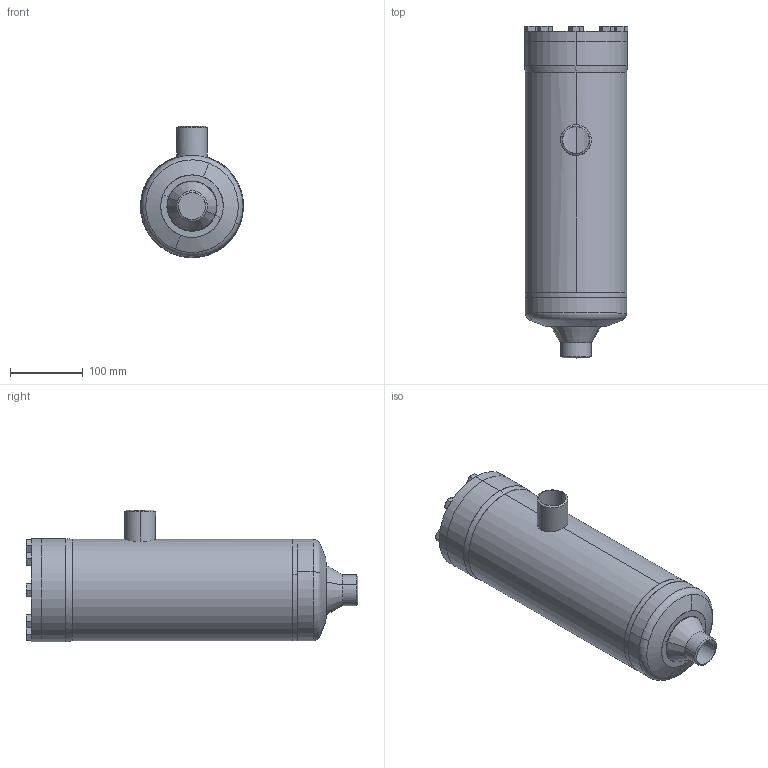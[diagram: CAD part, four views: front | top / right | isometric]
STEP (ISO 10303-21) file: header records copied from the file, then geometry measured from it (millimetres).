
FILE_DESCRIPTION (( 'STEP AP214' ), '1' );
FILE_NAME ('FT56700D13-DN32-2_PS40.STEP', '2010-09-13T08:27:11', ( 'Eckhard Grams' ), ( 'AWP Kälte Klima Armaturen GmbH' ), 'SwSTEP 2.0', 'SolidWorks 2002296', '' );
FILE_SCHEMA (( 'AUTOMOTIVE_DESIGN' ));
Length unit declared in the file: millimetre
Products named in the file (14): FT56700D13-DN32-2_PS40; FT Deckel-Schrauben-DN20-50_PS25_Standard; Deckel56700E15-DN20-50_PS40_Standard; Sechskantschraube-DIN933_M12x 30; Geh-kpl-FT-DN32-2_Standard; Gehäuse-FT-DN20-50_PS40_32-2; FT Boden-Führungsrohr DN32_PS25_Standard; bead-Bo-Fü-20-50_Standard; Führungsrohr-FT-DN20-50_DN 32; Boden-FT-DN20-80_DN 20 bis 50-4 PN 40; Rohrstutzen-FT-DN20-80_DN 32; Kopfstück-FT-DN20-50_PS40_Standard; bead32-Geh-Ko2_Standard; bead32-Geh-Bo1_Standard
Assembly tree (20 placements, depth 4):
  FT56700D13-DN32-2_PS40
    Geh-kpl-FT-DN32-2_Standard
      bead32-Geh-Bo1_Standard
      Gehäuse-FT-DN20-50_PS40_32-2
      FT Boden-Führungsrohr DN32_PS25_Standard
        bead-Bo-Fü-20-50_Standard
        Führungsrohr-FT-DN20-50_DN 32
        Boden-FT-DN20-80_DN 20 bis 50-4 PN 40
      bead32-Geh-Ko2_Standard
      Kopfstück-FT-DN20-50_PS40_Standard
      Rohrstutzen-FT-DN20-80_DN 32
    FT Deckel-Schrauben-DN20-50_PS25_Standard
      Sechskantschraube-DIN933_M12x 30  x8
      Deckel56700E15-DN20-50_PS40_Standard
Bounding box: 142.78 x 457.28 x 181 mm (x, y, z)
Volume: 1696390.7 mm3; surface area: 500809.9 mm2
Topology: 17 solids, 17 shells, 401 faces, 874 edges, 514 vertices
Faces by surface type: cone 170, cylinder 109, plane 98, bspline 12, torus 8, sphere 4
Entity records: 11134 total; most frequent: CARTESIAN_POINT 5347, DIRECTION 1150, ORIENTED_EDGE 988, EDGE_CURVE 494, AXIS2_PLACEMENT_3D 494, VERTEX_POINT 304, EDGE_LOOP 280, CIRCLE 254
